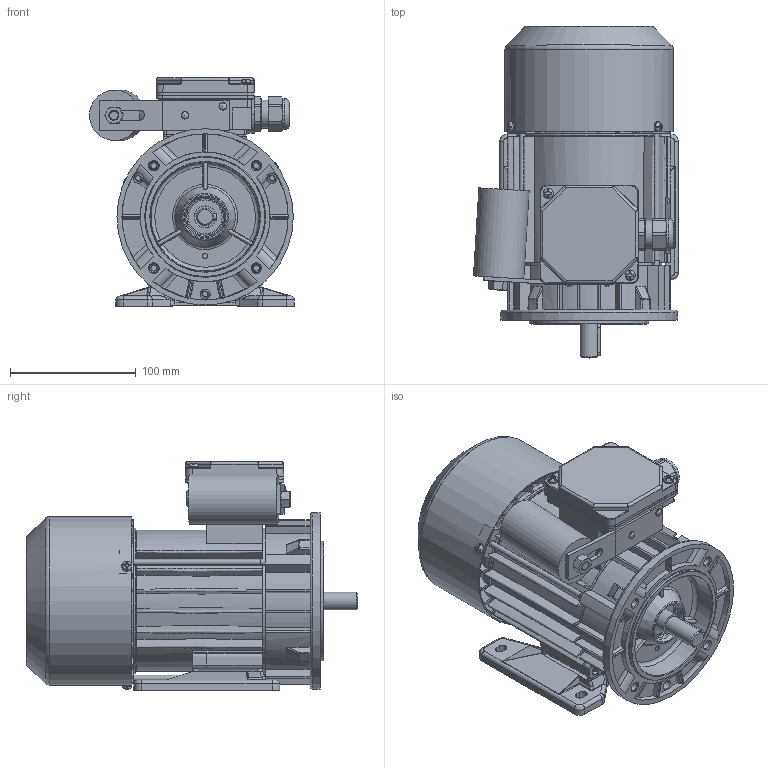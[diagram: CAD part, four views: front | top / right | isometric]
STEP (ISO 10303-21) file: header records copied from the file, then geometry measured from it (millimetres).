
FILE_DESCRIPTION( ( 'Unknown' ), '1' );
FILE_NAME( 'G:/Poczta Tk-1/STP/w.m.71/SEh71/SELh71-C1.stp', 'Unknown', ( 'K. Szlosek' ), ( 'BESEL S.A.' ), 'PSStep 17.0.49', 'Unknown', ' ' );
FILE_SCHEMA( ( 'AUTOMOTIVE_DESIGN { 1 0 10303 214 1 1 1 1 }' ) );
Length unit declared in the file: millimetre
Products named in the file (35): skrznka zaciskowa jednofazowa ; K4-2820 Uszczelka nr 2 Sh71,80; K2-1131 Podstawa skrzynki zaciskowej jednofazowa; K4-2999 Uchwyt kondensatora; Nit 4x12 po skróceniu; nakrętka M8; K4-0898 Tulejka uszczelniająca; Dławnica M20x1,5; K2-0860 Pokrywka skrzynki zaciskowej; Assem1; K3-2975 Osłona przewietrznika Sh71-.B,C; K4-2320 Uszczelka nr 1 Sh71,80; K1-1194 Kadłub z zamkami Sh71-.C; K3-6469 Tarcza łożyskowa P S(E,M)h71-B,C; Wpust A5x5x25; Wkręt samogwintujący M4x8; Nitokołek A 2x6; k3-4489 Wał SKh71 x-2C1; Wkręt samogwintujący M4x16; Kondensator zb 11-16uF Comar; K3-3984 Przewietrznik Sh71; Łożysko 6203; Śruba ściągająca E_M5x130; Tabliczka znamionowa 32x44; K1-1246 Tarcza kołnierzowa B14_1 w.m. 71; K1-0448 Łapa Sh71-.. 
Assembly tree (51 placements, depth 3):
  Assem1
    K3-2975 Osłona przewietrznika Sh71-.B,C
    K4-2320 Uszczelka nr 1 Sh71,80
    K1-1194 Kadłub z zamkami Sh71-.C
    K3-6469 Tarcza łożyskowa P S(E,M)h71-B,C
    Wpust A5x5x25
    Wkręt samogwintujący M4x8  x3
    Nitokołek A 2x6  x2
    k3-4489 Wał SKh71 x-2C1
    Wkręt samogwintujący M4x16  x2
    Kondensator zb 11-16uF Comar
    K3-3984 Przewietrznik Sh71
    Łożysko 6203  x2
    Łożysko 6203  x2
    Łożysko 6203  x2
    Łożysko 6203  x2
    Łożysko 6203  x2
    Łożysko 6203  x2
    Łożysko 6203  x2
    Łożysko 6203  x2
    Łożysko 6203  x2
    Łożysko 6203  x2
    Śruba ściągająca E_M5x130  x3
    Tabliczka znamionowa 32x44
    K1-1246 Tarcza kołnierzowa B14_1 w.m. 71
    K1-0448 Łapa Sh71-.. 
    skrznka zaciskowa jednofazowa 
      K4-2820 Uszczelka nr 2 Sh71,80
      K2-1131 Podstawa skrzynki zaciskowej jednofazowa
      K4-2999 Uchwyt kondensatora
      Nit 4x12 po skróceniu  x2
      nakrętka M8
      K4-0898 Tulejka uszczelniająca
      Dławnica M20x1,5
      K2-0860 Pokrywka skrzynki zaciskowej
Bounding box: 162.77 x 263.5 x 181.5 mm (x, y, z)
Volume: 878848.8 mm3; surface area: 508080.8 mm2
Topology: 50 solids, 66 shells, 2760 faces, 7433 edges, 4752 vertices
Faces by surface type: plane 1120, cylinder 801, bspline 391, torus 205, cone 191, sphere 52
Full cylindrical faces by diameter (mm): 2 x2, 2.4 x2, 3 x1, 3.7 x7, 3.8 x4, 4 x8, 4.134 x3, 4.3 x2, 4.5 x3, 4.6 x3, 4.8 x4, 5 x7, 5.5 x3, 5.8 x4, 6 x2, 6.5 x1, 6.647 x1, 6.8 x4, 7 x1, 8 x10, 10 x2, 14 x1, 15.9 x1, 16.1 x1, 16.5 x1, 17 x4, 17.4 x2, 18.376 x1, 18.38 x1, 20 x1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
Entity records: 158381 total; most frequent: CARTESIAN_POINT 75766, ORIENTED_EDGE 13278, DIRECTION 11975, EDGE_CURVE 6639, AXIS2_PLACEMENT_3D 4583, VERTEX_POINT 4406, EDGE_LOOP 3061, LINE 2809
